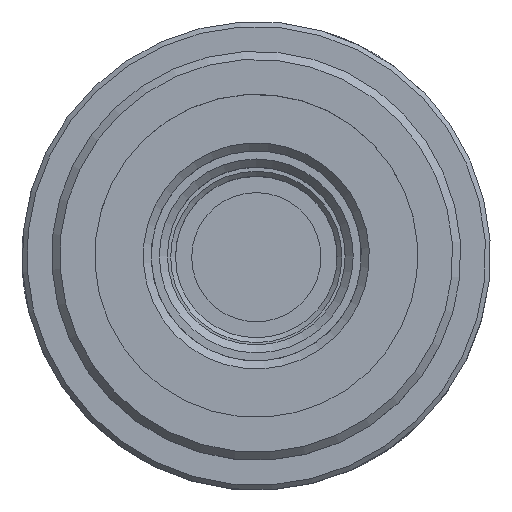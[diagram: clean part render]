
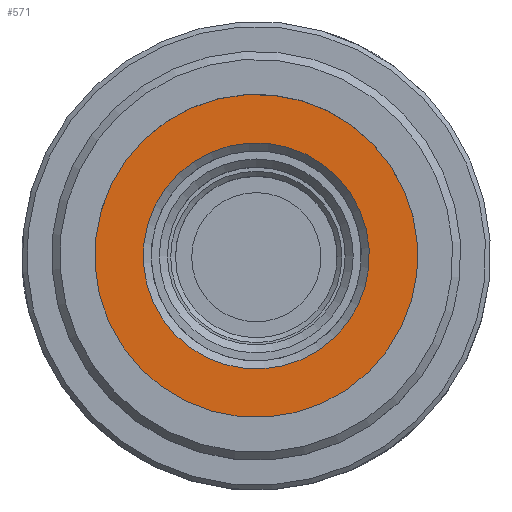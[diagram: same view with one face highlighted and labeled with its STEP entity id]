
A CAD part, top view. The second image highlights one B-rep face of the part: STEP entity #571.
In plain terms, the highlighted planar face has unit normal (0, 0, 1).
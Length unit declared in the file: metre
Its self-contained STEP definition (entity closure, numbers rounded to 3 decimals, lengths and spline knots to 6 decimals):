
#571=ADVANCED_FACE('NONE',(#1457,#1458),#1459,.F.);
#845=EDGE_CURVE('NONE',#1905,#1905,#1906,.T.);
#1047=EDGE_CURVE('NONE',#2188,#2188,#2189,.T.);
#1457=FACE_BOUND('',#2652,.T.);
#1458=FACE_OUTER_BOUND('',#2653,.T.);
#1459=PLANE('',#2654);
#1905=VERTEX_POINT('',#3365);
#1906=CIRCLE('',#3366,0.01);
#2188=VERTEX_POINT('',#3883);
#2189=CIRCLE('',#3884,0.007);
#2652=EDGE_LOOP('',(#4769));
#2653=EDGE_LOOP('',(#4770));
#2654=AXIS2_PLACEMENT_3D('',#4771,#4772,#4773);
#3365=CARTESIAN_POINT('',(-0.000655,0.009952,0.0294));
#3366=AXIS2_PLACEMENT_3D('',#5340,#5341,#5342);
#3883=CARTESIAN_POINT('',(-0.000451,0.006959,0.0294));
#3884=AXIS2_PLACEMENT_3D('',#5550,#5551,#5552);
#4769=ORIENTED_EDGE('',*,*,#1047,.T.);
#4770=ORIENTED_EDGE('',*,*,#845,.F.);
#4771=CARTESIAN_POINT('',(0.010002,0.000655,0.0294));
#4772=DIRECTION('',(0.,0.0,-1.0));
#4773=DIRECTION('',(0.0,-1.0,0.0));
#5340=CARTESIAN_POINT('',(0.000025,-0.000025,0.0294));
#5341=DIRECTION('',(0.,0.,-1.0));
#5342=DIRECTION('',(-0.068,0.998,0.));
#5550=CARTESIAN_POINT('',(0.000025,-0.000025,0.0294));
#5551=DIRECTION('',(0.,0.,-1.0));
#5552=DIRECTION('',(-0.068,0.998,0.));
